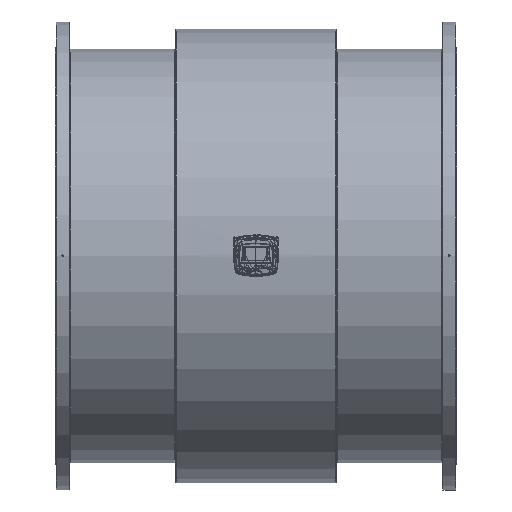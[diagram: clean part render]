
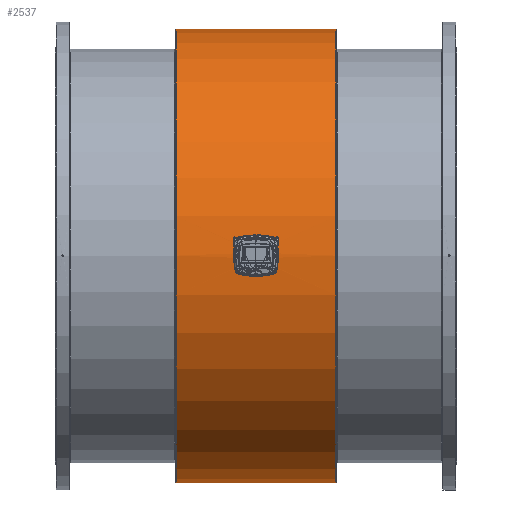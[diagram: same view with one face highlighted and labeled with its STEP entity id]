
A CAD part, top view. The second image highlights one B-rep face of the part: STEP entity #2537.
In plain terms, the highlighted cylindrical face has radius 790 mm (diameter 1580 mm), a full revolution.
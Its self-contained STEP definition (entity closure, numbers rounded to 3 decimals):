
#2472=CARTESIAN_POINT('',(0.,-11.5,789.916));
#2473=VERTEX_POINT('',#2472);
#2483=CARTESIAN_POINT('',(0.,-11.501,789.916));
#2484=CARTESIAN_POINT('',(1.725,-11.501,789.916));
#2485=CARTESIAN_POINT('',(5.177,-10.715,789.928));
#2486=CARTESIAN_POINT('',(9.328,-7.417,789.969));
#2487=CARTESIAN_POINT('',(11.632,-2.645,790.001));
#2488=CARTESIAN_POINT('',(11.628,2.056,790.001));
#2489=CARTESIAN_POINT('',(9.717,6.919,789.974));
#2490=CARTESIAN_POINT('',(6.64,9.776,789.94));
#2491=CARTESIAN_POINT('',(3.413,11.031,789.923));
#2492=CARTESIAN_POINT('',(0.04,11.806,789.912));
#2493=CARTESIAN_POINT('',(-4.716,11.087,789.924));
#2494=CARTESIAN_POINT('',(-9.327,7.414,789.969));
#2495=CARTESIAN_POINT('',(-11.631,2.647,790.001));
#2496=CARTESIAN_POINT('',(-11.631,-2.646,790.001));
#2497=CARTESIAN_POINT('',(-9.329,-7.416,789.969));
#2498=CARTESIAN_POINT('',(-5.177,-10.715,789.928));
#2499=CARTESIAN_POINT('',(-1.726,-11.501,789.916));
#2500=CARTESIAN_POINT('',(0.,-11.501,789.916));
#2501=B_SPLINE_CURVE_WITH_KNOTS('',3,(#2483,#2484,#2485,#2486,#2487,#2488,#2489,#2490,#2491,#2492,#2493,#2494,#2495,#2496,#2497,#2498,#2499,#2500),.UNSPECIFIED.,.T.,.U.,(4,1,1,1,1,1,1,1,1,1,1,1,1,1,1,4),(-7.216,-6.7,-6.185,-5.67,-5.154,-4.811,-4.123,-3.952,-3.78,-3.092,-2.577,-2.062,-1.546,-1.031,-0.515,0.0),.UNSPECIFIED.);
#2502=EDGE_CURVE('',#2473,#2473,#2501,.T.);
#2507=CARTESIAN_POINT('',(139.,0.0,0.0));
#2508=DIRECTION('',(1.0,0.0,0.0));
#2509=DIRECTION('',(0.0,1.0,0.0));
#2510=AXIS2_PLACEMENT_3D('',#2507,#2508,#2509);
#2511=CYLINDRICAL_SURFACE('',#2510,790.0);
#2512=CARTESIAN_POINT('',(-278.,790.0,0.0));
#2513=VERTEX_POINT('',#2512);
#2514=CARTESIAN_POINT('',(-278.,0.0,0.0));
#2515=DIRECTION('',(1.0,0.0,0.0));
#2516=DIRECTION('',(0.0,1.0,0.0));
#2517=AXIS2_PLACEMENT_3D('',#2514,#2515,#2516);
#2518=CIRCLE('',#2517,790.0);
#2519=EDGE_CURVE('',#2513,#2513,#2518,.T.);
#2520=ORIENTED_EDGE('',*,*,#2519,.T.);
#2521=EDGE_LOOP('',(#2520));
#2522=FACE_OUTER_BOUND('',#2521,.T.);
#2523=CARTESIAN_POINT('',(278.,790.0,0.0));
#2524=VERTEX_POINT('',#2523);
#2525=CARTESIAN_POINT('',(278.,0.0,0.0));
#2526=DIRECTION('',(1.0,0.0,0.0));
#2527=DIRECTION('',(0.0,1.0,0.0));
#2528=AXIS2_PLACEMENT_3D('',#2525,#2526,#2527);
#2529=CIRCLE('',#2528,790.0);
#2530=EDGE_CURVE('',#2524,#2524,#2529,.T.);
#2531=ORIENTED_EDGE('',*,*,#2530,.F.);
#2532=EDGE_LOOP('',(#2531));
#2533=FACE_BOUND('',#2532,.T.);
#2534=ORIENTED_EDGE('',*,*,#2502,.F.);
#2535=EDGE_LOOP('',(#2534));
#2536=FACE_BOUND('',#2535,.T.);
#2537=ADVANCED_FACE('',(#2522,#2533,#2536),#2511,.T.);
